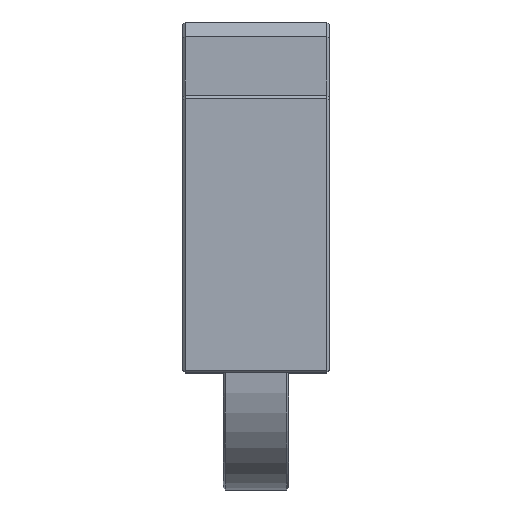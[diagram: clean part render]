
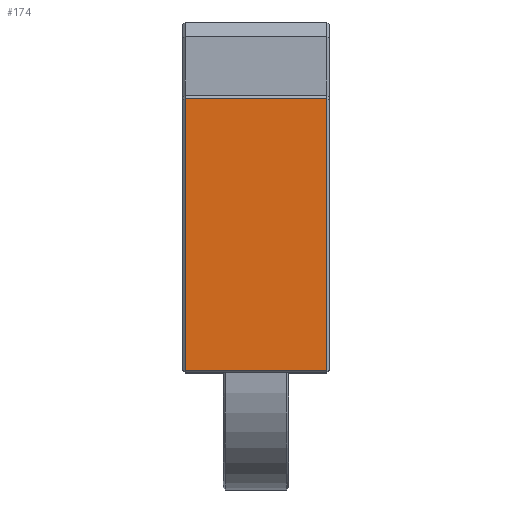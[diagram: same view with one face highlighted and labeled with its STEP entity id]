
A CAD part, left-side view. The second image highlights one B-rep face of the part: STEP entity #174.
In plain terms, the highlighted planar face has unit normal (-1, 0, 0).
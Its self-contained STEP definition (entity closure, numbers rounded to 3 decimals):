
#174 = ADVANCED_FACE( '', ( #588 ), #589, .T. );
#588 = FACE_OUTER_BOUND( '', #1465, .T. );
#589 = PLANE( '', #1466 );
#1465 = EDGE_LOOP( '', ( #2488, #2489, #2490, #2491 ) );
#1466 = AXIS2_PLACEMENT_3D( '', #2492, #2493, #2494 );
#2488 = ORIENTED_EDGE( '', *, *, #5758, .T. );
#2489 = ORIENTED_EDGE( '', *, *, #5759, .T. );
#2490 = ORIENTED_EDGE( '', *, *, #5760, .T. );
#2491 = ORIENTED_EDGE( '', *, *, #5761, .T. );
#2492 = CARTESIAN_POINT( '', ( -35., -10., 0. ) );
#2493 = DIRECTION( '', ( -1., 0., 0. ) );
#2494 = DIRECTION( '', ( 0., 0., 1. ) );
#5758 = EDGE_CURVE( '', #6954, #6955, #6956, .T. );
#5759 = EDGE_CURVE( '', #6955, #6957, #6958, .T. );
#5760 = EDGE_CURVE( '', #6957, #6959, #6960, .T. );
#5761 = EDGE_CURVE( '', #6959, #6954, #6961, .T. );
#6954 = VERTEX_POINT( '', #8771 );
#6955 = VERTEX_POINT( '', #8772 );
#6956 = LINE( '', #8773, #8774 );
#6957 = VERTEX_POINT( '', #8775 );
#6958 = LINE( '', #8776, #8777 );
#6959 = VERTEX_POINT( '', #8778 );
#6960 = LINE( '', #8779, #8780 );
#6961 = LINE( '', #8781, #8782 );
#8771 = CARTESIAN_POINT( '', ( -35., -9.7, 37.5 ) );
#8772 = CARTESIAN_POINT( '', ( -35., 9.7, 37.5 ) );
#8773 = CARTESIAN_POINT( '', ( -35., -10., 37.5 ) );
#8774 = VECTOR( '', #11626, 1000. );
#8775 = CARTESIAN_POINT( '', ( -35., 9.7, 0.3 ) );
#8776 = CARTESIAN_POINT( '', ( -35., 9.7, 0. ) );
#8777 = VECTOR( '', #11627, 1000. );
#8778 = CARTESIAN_POINT( '', ( -35., -9.7, 0.3 ) );
#8779 = CARTESIAN_POINT( '', ( -35., -10., 0.3 ) );
#8780 = VECTOR( '', #11628, 1000. );
#8781 = CARTESIAN_POINT( '', ( -35., -9.7, 37.5 ) );
#8782 = VECTOR( '', #11629, 1000. );
#11626 = DIRECTION( '', ( 0., 1., 0. ) );
#11627 = DIRECTION( '', ( 0., 0., -1. ) );
#11628 = DIRECTION( '', ( 0., -1., 0. ) );
#11629 = DIRECTION( '', ( 0., 0., 1. ) );
